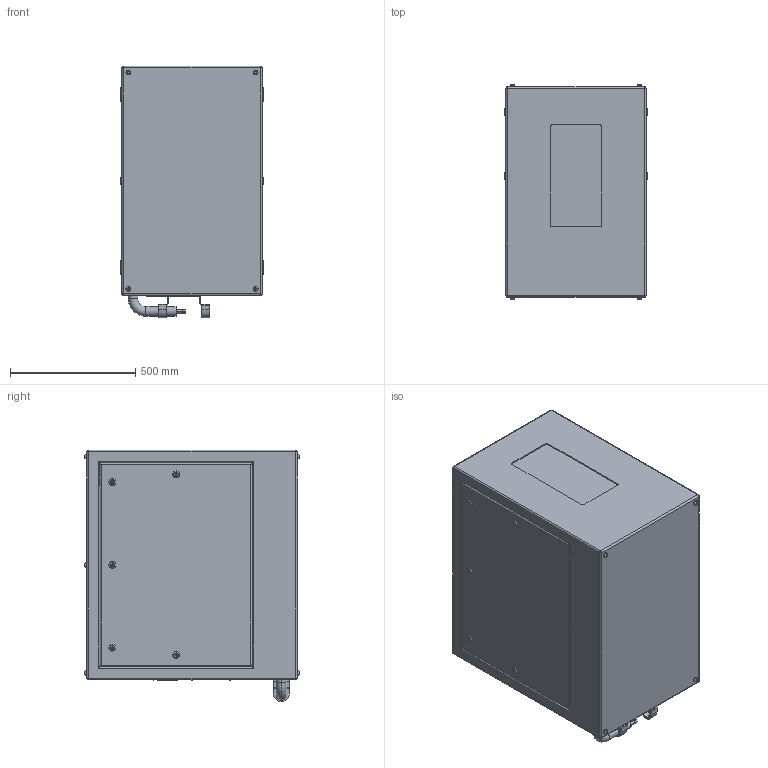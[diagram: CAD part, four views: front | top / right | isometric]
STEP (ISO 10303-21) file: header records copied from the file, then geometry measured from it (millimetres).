
FILE_DESCRIPTION (( 'STEP AP214' ), '1' );
FILE_NAME ('Oasis 59.100.P R02.STEP', '2022-08-27T15:59:29', ( '' ), ( '' ), 'SwSTEP 2.0', 'SolidWorks 2020', '' );
FILE_SCHEMA (( 'AUTOMOTIVE_DESIGN' ));
Length unit declared in the file: inch
Products named in the file (1): Oasis 59.100.P R02
Bounding box: 571.5 x 855.47 x 1003.3 mm (x, y, z)
Volume: 427629481.8 mm3; surface area: 3909476.7 mm2
Topology: 2 solids, 8 shells, 555 faces, 1265 edges, 802 vertices
Faces by surface type: plane 307, cylinder 186, torus 54, bspline 8
Entity records: 21388 total; most frequent: CARTESIAN_POINT 3135, DIRECTION 2763, ORIENTED_EDGE 2514, EDGE_CURVE 1257, AXIS2_PLACEMENT_3D 990, VERTEX_POINT 802, LINE 783, VECTOR 783
